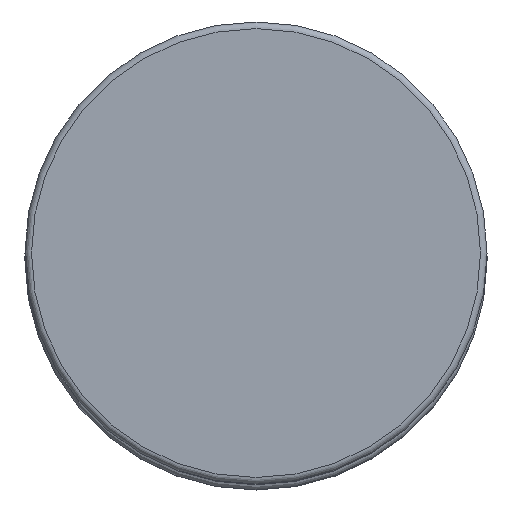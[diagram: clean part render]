
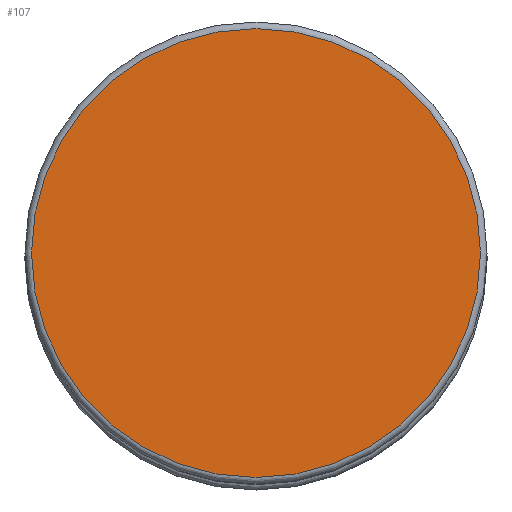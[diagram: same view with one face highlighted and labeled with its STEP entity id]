
A CAD part, top view. The second image highlights one B-rep face of the part: STEP entity #107.
In plain terms, the highlighted planar face has unit normal (0, 0, 1).
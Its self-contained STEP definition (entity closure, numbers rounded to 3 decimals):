
#107=ADVANCED_FACE('',(#1331),#1333,.T.);
#1331=FACE_BOUND('',#1332,.T.);
#1332=EDGE_LOOP('',(#2773));
#1333=PLANE('',#1334);
#1334=AXIS2_PLACEMENT_3D('',#1335,#1336,#1337);
#1335=CARTESIAN_POINT('',(0.,0.,495.));
#1336=DIRECTION('',(0.,0.,1.));
#1337=DIRECTION('',(-1.,0.,0.));
#2773=ORIENTED_EDGE('',*,*,#3454,.F.);
#3454=EDGE_CURVE('',#3807,#3807,#3808,.T.);
#3807=VERTEX_POINT('',#4591);
#3808=CIRCLE('',#4592,33.975);
#4591=CARTESIAN_POINT('',(-33.975,0.,495.));
#4592=AXIS2_PLACEMENT_3D('',#4593,#4594,#4595);
#4593=CARTESIAN_POINT('',(0.,0.,495.));
#4594=DIRECTION('',(0.,0.,-1.));
#4595=DIRECTION('',(-1.,0.,0.));
